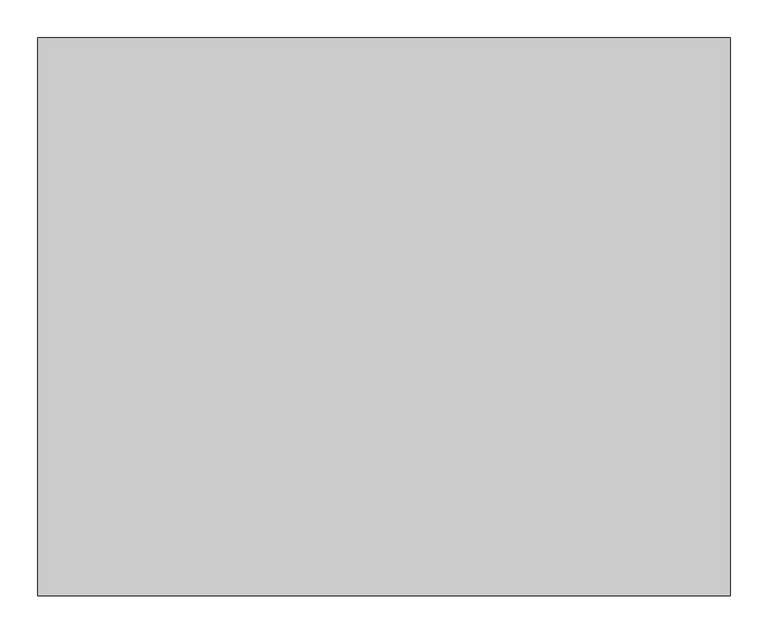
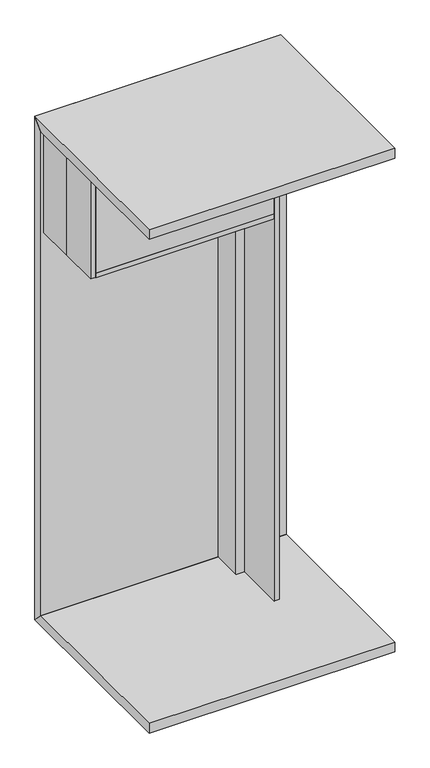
"""IFC4 building model written with IfcOpenShell, lengths in millimetres: proxy geometry, AERO^OFFICE 4_36x78 DESK PED RT HALF MOD-PARTS SOLID."""

from ifc_helpers import new_model, si_unit, frame, origin, place, context, project, spatial, polyline, outline, extrude, source, transform, mapped, element, save


def generic_models_54604521(model_context):
    return source(origin(), model_context, "Body", "SweptSolid", [
        extrude(outline(polyline([(-698.5, -1943.1), (0.0, -1943.1), (38.1, -1981.2), (-698.5, -1981.2), (-698.5, -1943.1)])), frame((0.0, 0.0, 0.0), z_axis=(1.0, 0.0, 0.0), x_axis=(0.0, 1.0, 0.0)), (0.0, 0.0, 1.0), 914.4),
        extrude(outline(polyline([(692.15, -304.8), (28.575, -304.8), (28.575, -285.75), (692.15, -285.75), (692.15, -304.8)])), frame((0.0, 0.0, -419.1), z_axis=(0.0, 0.0, 1.0), x_axis=(1.0, 0.0, 0.0)), (0.0, 0.0, 1.0), 361.95),
        extrude(outline(polyline([(9.525, 9.525), (28.575, 9.525), (28.575, -146.446875), (9.525, -146.446875), (9.525, 9.525)])), frame((0.0, 0.0, -435.76875), z_axis=(0.0, 0.0, 1.0), x_axis=(1.0, 0.0, 0.0)), (0.0, 0.0, 1.0), 407.19375),
        extrude(outline(polyline([(692.15, 0.0), (692.15, -304.8), (28.575, -304.8), (28.575, 0.0), (692.15, 0.0)])), frame((0.0, 0.0, -438.15), z_axis=(0.0, 0.0, 1.0), x_axis=(1.0, 0.0, 0.0)), (0.0, 0.0, 1.0), 19.05),
        extrude(outline(polyline([(692.15, 0.0), (692.15, -114.3), (660.4, -114.3), (660.4, 0.0), (692.15, 0.0)])), frame((0.0, 0.0, -1943.1), z_axis=(0.0, 0.0, 1.0), x_axis=(1.0, 0.0, 0.0)), (0.0, 0.0, 1.0), 1905.0),
        extrude(outline(polyline([(28.575, 0.0), (692.15, 0.0), (692.15, -304.8), (28.575, -304.8), (28.575, 0.0)])), frame((0.0, 0.0, -57.15), z_axis=(0.0, 0.0, 1.0), x_axis=(1.0, 0.0, 0.0)), (0.0, 0.0, 1.0), 19.05),
        extrude(outline(polyline([(-698.5, -38.1), (-698.5, 0.0), (38.1, 0.0), (0.0, -38.1), (-698.5, -38.1)])), frame((0.0, 0.0, 0.0), z_axis=(1.0, 0.0, 0.0), x_axis=(0.0, 1.0, 0.0)), (0.0, 0.0, 1.0), 914.4),
        extrude(outline(polyline([(0.0, -1943.1), (0.0, -38.1), (38.1, 0.0), (38.1, -1981.2), (0.0, -1943.1)])), frame((0.0, 0.0, 0.0), z_axis=(1.0, 0.0, 0.0), x_axis=(0.0, 1.0, 0.0)), (0.0, 0.0, 1.0), 914.4),
        extrude(outline(polyline([(9.525, -304.8), (9.525, -148.828125), (28.575, -148.828125), (28.575, -304.8), (9.525, -304.8)])), frame((0.0, 0.0, -435.76875), z_axis=(0.0, 0.0, 1.0), x_axis=(1.0, 0.0, 0.0)), (0.0, 0.0, 1.0), 407.19375),
        extrude(outline(polyline([(692.15, 0.0), (711.2, 0.0), (711.2, -304.8), (692.15, -304.8), (692.15, 0.0)])), frame((0.0, 0.0, -1943.1), z_axis=(0.0, 0.0, 1.0), x_axis=(1.0, 0.0, 0.0)), (0.0, 0.0, 1.0), 1905.0),
    ])


if __name__ == "__main__":
    model = new_model("IFC4")
    model_context = context("Model", 3, world=origin())
    ifc_project = project(units=[si_unit("LENGTHUNIT", "METRE", prefix="MILLI")], contexts=[model_context])
    site = spatial("IfcSite", under=ifc_project)
    building = spatial("IfcBuilding", under=site)
    placement = place(None, origin())
    generic_models_shape = generic_models_54604521(model_context)
    element("IfcBuildingElementProxy", 1, Name="AERO^OFFICE 4_36x78 DESK PED RT HALF MOD-PARTS SOLID", ObjectType="AERO^OFFICE 4_36x78 DESK PED RT HALF MOD-PARTS SOLID", at=placement, inside=building, context=model_context, shape_type="MappedRepresentation", body=[
        mapped(generic_models_shape, transform((0.0, 0.0, 0.0), x_axis=(1.0, 0.0, 0.0), y_axis=(0.0, 1.0, 0.0), z_axis=(0.0, 0.0, 1.0))),
    ])
    save(model, "model.ifc")
